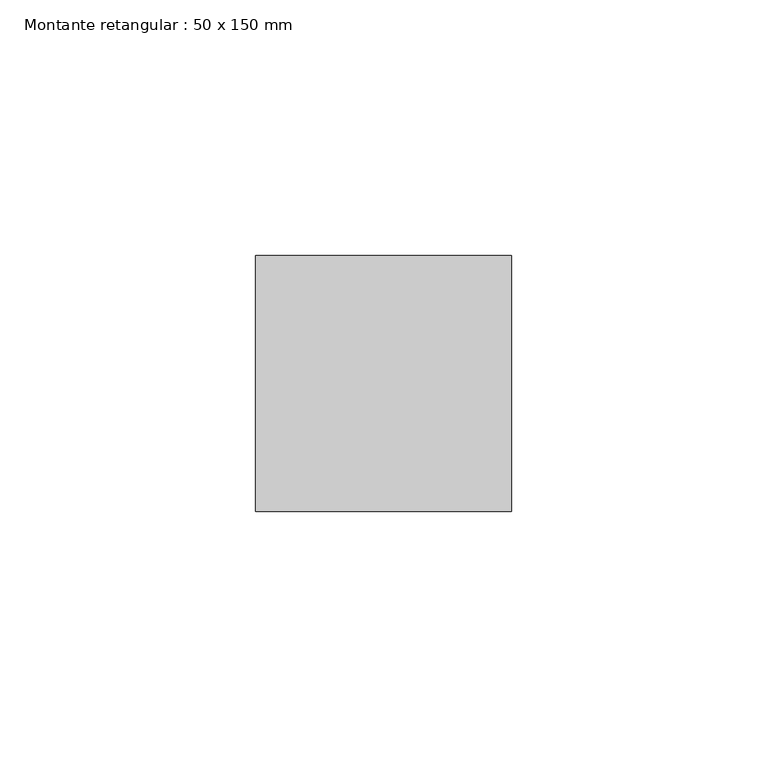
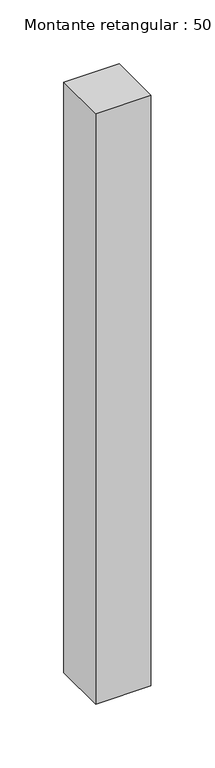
"""IFC4 building model written with IfcOpenShell, lengths in millimetres: member geometry, Montante retangular : 50 x 150 mm."""

from ifc_helpers import new_model, si_unit, frame, origin, place, context, project, spatial, polyline, outline, extrude, source, transform, mapped, element, save


def montante_retangular_50_x_150_mm_ddc79276(model_context):
    return source(origin(), model_context, "Body", "SweptSolid", [
        extrude(outline(polyline([(25.0, 25.0), (25.0, -25.0), (-25.0, -25.0), (-25.0, 25.0), (25.0, 25.0)])), frame((0.0, 0.0, -565.0), z_axis=(0.0, 0.0, 1.0), x_axis=(1.0, 0.0, 0.0)), (0.0, 0.0, 1.0), 565.0),
    ])


if __name__ == "__main__":
    model = new_model("IFC4")
    model_context = context("Model", 3, world=origin())
    ifc_project = project(units=[si_unit("LENGTHUNIT", "METRE", prefix="MILLI")], contexts=[model_context])
    site = spatial("IfcSite", under=ifc_project)
    building = spatial("IfcBuilding", under=site)
    placement = place(None, origin())
    montante_retangular_50_x_150_mm_shape = montante_retangular_50_x_150_mm_ddc79276(model_context)
    element("IfcMember", 1, ObjectType="Montante retangular : 50 x 150 mm", at=placement, inside=building, context=model_context, shape_type="MappedRepresentation", body=[
        mapped(montante_retangular_50_x_150_mm_shape, transform((0.0, 0.0, 0.0), x_axis=(1.0, 0.0, 0.0), y_axis=(0.0, 1.0, 0.0), z_axis=(0.0, 0.0, 1.0))),
    ])
    save(model, "model.ifc")
